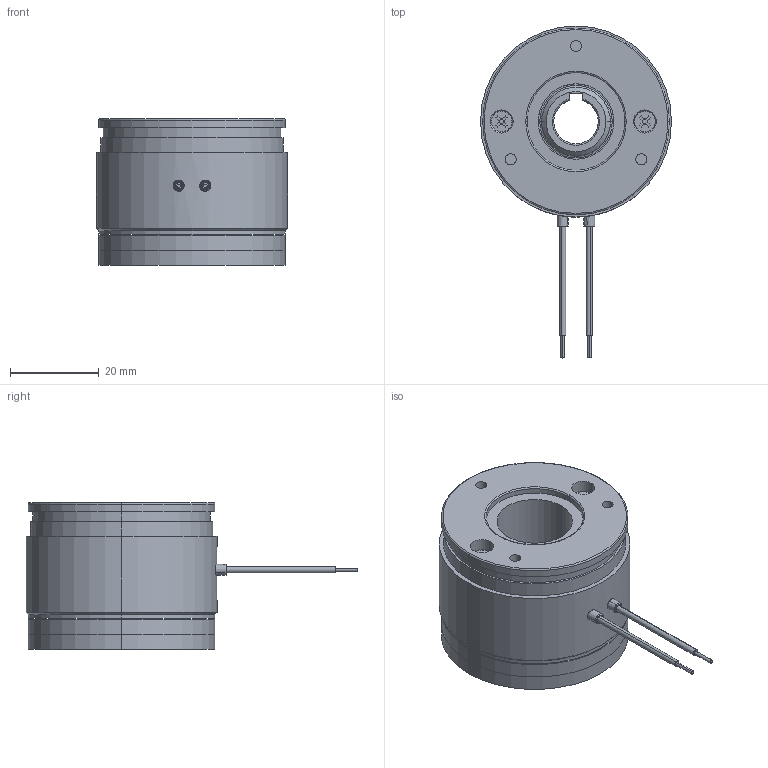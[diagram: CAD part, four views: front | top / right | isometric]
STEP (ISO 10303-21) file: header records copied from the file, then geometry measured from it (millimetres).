
FILE_DESCRIPTION (( 'STEP AP214' ), '1' );
FILE_NAME ('04P1320.STEP', '2026-04-23T06:18:08', ( '' ), ( '' ), 'SwSTEP 2.0', 'SolidWorks 2025', '' );
FILE_SCHEMA (( 'AUTOMOTIVE_DESIGN' ));
Length unit declared in the file: millimetre
Products named in the file (10): 10088626swp000_genietet (2,35mm Klemmlänge); 10088631swa000; 04P1320; 10088627swa000; 10088624swp000; 10088625swp000; 10088626swp000_Einbaulänge 2,15mm; 10088628swp000; 10088629swp000; 10088630swp000
Assembly tree (18 placements, depth 4):
  04P1320
    10088624swp000
    10088631swa000
      10088630swp000
      10088627swa000
        10088628swp000
        10088625swp000
        10088626swp000_genietet (2,35mm Klemmlänge)  x3
        10088629swp000  x3
      10088626swp000_Einbaulänge 2,15mm  x3
      10088629swp000  x3
Bounding box: 43 x 74.7 x 33 mm (x, y, z)
Volume: 38819.5 mm3; surface area: 17738.4 mm2
Topology: 18 solids, 18 shells, 381 faces, 856 edges, 524 vertices
Faces by surface type: cylinder 161, cone 94, plane 74, torus 40, sphere 12
Entity records: 8193 total; most frequent: DIRECTION 1516, CARTESIAN_POINT 1434, ORIENTED_EDGE 1216, AXIS2_PLACEMENT_3D 630, EDGE_CURVE 608, VERTEX_POINT 380, CIRCLE 340, EDGE_LOOP 334
